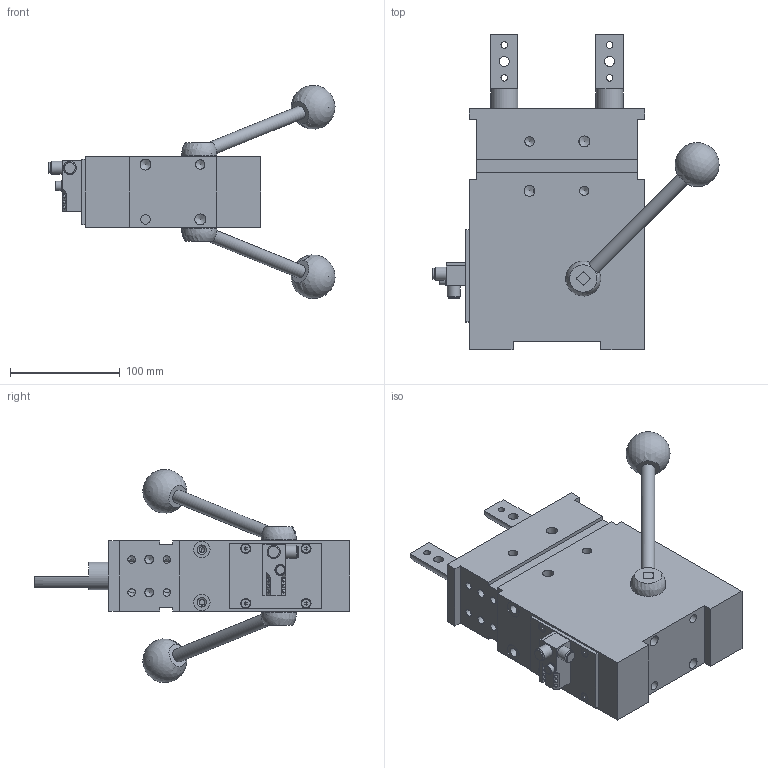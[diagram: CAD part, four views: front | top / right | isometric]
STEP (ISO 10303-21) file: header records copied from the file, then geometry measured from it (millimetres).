
FILE_DESCRIPTION(/* description */ (''),/* implementation_level */ '2;1');
FILE_NAME(/* name */ 'S:\Tom\INVENTOR FILES\INVENTOR WORKSPACE\AUTOMOTIVE\LOCATORS\XLP 63 -2\tunkers SZV\Tunkers models 091116\SZVD_50_1_Z_A23_T12_TUENKERS\SATS\XLP50-2-3-ML-40-S21.stp',/* time_stamp */ '2016-11-09T15:59:26+00:00',/* author */ ('carl'),/* organization */ (''),/* preprocessor_version */ 'ST-DEVELOPER v16.1',/* originating_system */ 'Autodesk Inventor 2016',/* authorisation */ '');
FILE_SCHEMA (('AUTOMOTIVE_DESIGN { 1 0 10303 214 3 1 1 }'));
Length unit declared in the file: millimetre
Products named in the file (1): XLP50-2-3-ML-40-S21
Bounding box: 260.8 x 288 x 194.24 mm (x, y, z)
Volume: 2100324.4 mm3; surface area: 230661.9 mm2
Topology: 1 solids, 26 shells, 484 faces, 1211 edges, 788 vertices
Faces by surface type: plane 238, cylinder 135, cone 93, sphere 10, torus 8
Full cylindrical faces by diameter (mm): 3.3 x8, 4 x4, 4.2 x1, 4.5 x4, 5 x10, 6 x18, 6.5 x6, 6.8 x8, 8 x8, 8.5 x9, 8.56 x2, 9 x2, 10 x17, 11 x6, 12 x6, 15 x2, 25 x4, 30 x1, 32 x4, 35 x2, 40 x1, 46.2 x1, 50 x2, 55 x1
Entity records: 12481 total; most frequent: CARTESIAN_POINT 2663, DIRECTION 2047, ORIENTED_EDGE 1662, EDGE_CURVE 831, AXIS2_PLACEMENT_3D 830, EDGE_LOOP 805, VERTEX_POINT 634, ADVANCED_FACE 484
